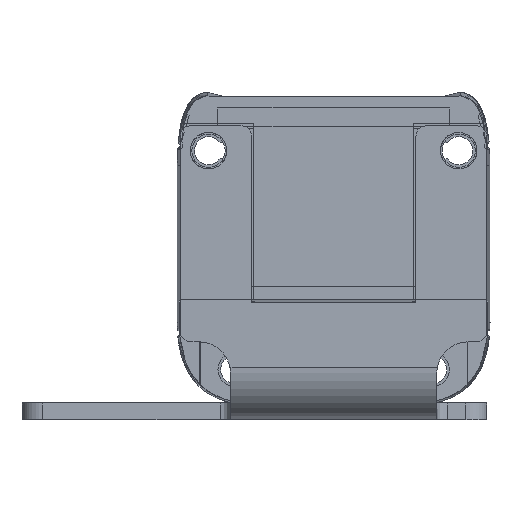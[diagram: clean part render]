
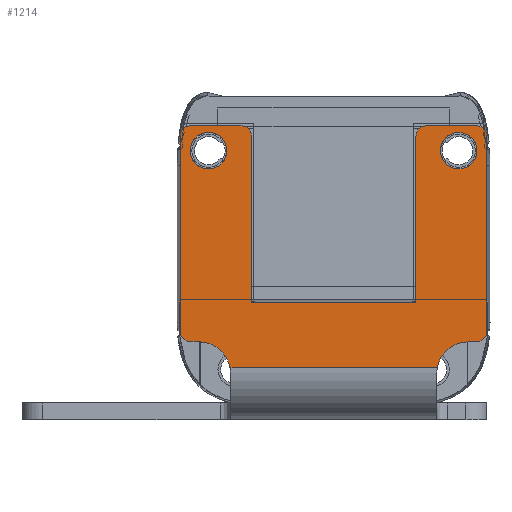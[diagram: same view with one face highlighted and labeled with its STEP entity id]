
A CAD part, front view. The second image highlights one B-rep face of the part: STEP entity #1214.
In plain terms, the highlighted planar face has unit normal (0, -1, 0).
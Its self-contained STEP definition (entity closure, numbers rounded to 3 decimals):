
#1214=ADVANCED_FACE('',(#1904,#1905,#1906),#1492,.T.);
#1492=PLANE('',#9447);
#1797=CIRCLE('',#9437,3.);
#1798=CIRCLE('',#9438,1.);
#1799=CIRCLE('',#9439,1.);
#1800=CIRCLE('',#9440,1.);
#1801=CIRCLE('',#9441,1.);
#1802=CIRCLE('',#9442,1.);
#1803=CIRCLE('',#9443,1.);
#1804=CIRCLE('',#9444,3.);
#1805=CIRCLE('',#9445,1.75);
#1806=CIRCLE('',#9446,1.75);
#1904=FACE_BOUND('',#2370,.T.);
#1905=FACE_BOUND('',#2371,.T.);
#1906=FACE_BOUND('',#2372,.T.);
#2370=EDGE_LOOP('',(#4747,#4748,#4749,#4750,#4751,#4752,#4753,#4754,#4755,
#4756,#4757,#4758,#4759,#4760,#4761,#4762,#4763,#4764));
#2371=EDGE_LOOP('',(#4765));
#2372=EDGE_LOOP('',(#4766));
#4747=ORIENTED_EDGE('',*,*,#6984,.T.);
#4748=ORIENTED_EDGE('',*,*,#6985,.F.);
#4749=ORIENTED_EDGE('',*,*,#6986,.T.);
#4750=ORIENTED_EDGE('',*,*,#6987,.T.);
#4751=ORIENTED_EDGE('',*,*,#6988,.T.);
#4752=ORIENTED_EDGE('',*,*,#6989,.T.);
#4753=ORIENTED_EDGE('',*,*,#6990,.T.);
#4754=ORIENTED_EDGE('',*,*,#6991,.F.);
#4755=ORIENTED_EDGE('',*,*,#6992,.F.);
#4756=ORIENTED_EDGE('',*,*,#6993,.T.);
#4757=ORIENTED_EDGE('',*,*,#6994,.T.);
#4758=ORIENTED_EDGE('',*,*,#6995,.F.);
#4759=ORIENTED_EDGE('',*,*,#6996,.T.);
#4760=ORIENTED_EDGE('',*,*,#6997,.F.);
#4761=ORIENTED_EDGE('',*,*,#6998,.T.);
#4762=ORIENTED_EDGE('',*,*,#6999,.T.);
#4763=ORIENTED_EDGE('',*,*,#7000,.T.);
#4764=ORIENTED_EDGE('',*,*,#7001,.T.);
#4765=ORIENTED_EDGE('',*,*,#7002,.F.);
#4766=ORIENTED_EDGE('',*,*,#7003,.T.);
#5758=VERTEX_POINT('',#15419);
#5759=VERTEX_POINT('',#15420);
#5760=VERTEX_POINT('',#15422);
#5761=VERTEX_POINT('',#15424);
#5762=VERTEX_POINT('',#15426);
#5763=VERTEX_POINT('',#15428);
#5764=VERTEX_POINT('',#15430);
#5765=VERTEX_POINT('',#15432);
#5766=VERTEX_POINT('',#15434);
#5767=VERTEX_POINT('',#15436);
#5768=VERTEX_POINT('',#15438);
#5769=VERTEX_POINT('',#15440);
#5770=VERTEX_POINT('',#15442);
#5771=VERTEX_POINT('',#15444);
#5772=VERTEX_POINT('',#15446);
#5773=VERTEX_POINT('',#15448);
#5774=VERTEX_POINT('',#15450);
#5775=VERTEX_POINT('',#15452);
#5776=VERTEX_POINT('',#15455);
#5777=VERTEX_POINT('',#15457);
#6984=EDGE_CURVE('',#5758,#5759,#1797,.T.);
#6985=EDGE_CURVE('',#5760,#5759,#7863,.T.);
#6986=EDGE_CURVE('',#5760,#5761,#1798,.T.);
#6987=EDGE_CURVE('',#5761,#5762,#7864,.T.);
#6988=EDGE_CURVE('',#5762,#5763,#1799,.T.);
#6989=EDGE_CURVE('',#5763,#5764,#7865,.T.);
#6990=EDGE_CURVE('',#5764,#5765,#1800,.T.);
#6991=EDGE_CURVE('',#5766,#5765,#7866,.T.);
#6992=EDGE_CURVE('',#5767,#5766,#7867,.T.);
#6993=EDGE_CURVE('',#5767,#5768,#7868,.T.);
#6994=EDGE_CURVE('',#5768,#5769,#1801,.T.);
#6995=EDGE_CURVE('',#5770,#5769,#7869,.T.);
#6996=EDGE_CURVE('',#5770,#5771,#1802,.T.);
#6997=EDGE_CURVE('',#5772,#5771,#7870,.T.);
#6998=EDGE_CURVE('',#5772,#5773,#1803,.T.);
#6999=EDGE_CURVE('',#5773,#5774,#7871,.T.);
#7000=EDGE_CURVE('',#5774,#5775,#1804,.T.);
#7001=EDGE_CURVE('',#5775,#5758,#7872,.T.);
#7002=EDGE_CURVE('',#5776,#5776,#1805,.T.);
#7003=EDGE_CURVE('',#5777,#5777,#1806,.T.);
#7863=LINE('',#15421,#8719);
#7864=LINE('',#15425,#8720);
#7865=LINE('',#15429,#8721);
#7866=LINE('',#15433,#8722);
#7867=LINE('',#15435,#8723);
#7868=LINE('',#15437,#8724);
#7869=LINE('',#15441,#8725);
#7870=LINE('',#15445,#8726);
#7871=LINE('',#15449,#8727);
#7872=LINE('',#15453,#8728);
#8719=VECTOR('',#11638,1.);
#8720=VECTOR('',#11641,1.);
#8721=VECTOR('',#11644,1.);
#8722=VECTOR('',#11647,1.);
#8723=VECTOR('',#11648,1.);
#8724=VECTOR('',#11649,1.);
#8725=VECTOR('',#11652,1.);
#8726=VECTOR('',#11655,1.);
#8727=VECTOR('',#11658,1.);
#8728=VECTOR('',#11661,1.);
#9437=AXIS2_PLACEMENT_3D('',#15418,#11636,#11637);
#9438=AXIS2_PLACEMENT_3D('',#15423,#11639,#11640);
#9439=AXIS2_PLACEMENT_3D('',#15427,#11642,#11643);
#9440=AXIS2_PLACEMENT_3D('',#15431,#11645,#11646);
#9441=AXIS2_PLACEMENT_3D('',#15439,#11650,#11651);
#9442=AXIS2_PLACEMENT_3D('',#15443,#11653,#11654);
#9443=AXIS2_PLACEMENT_3D('',#15447,#11656,#11657);
#9444=AXIS2_PLACEMENT_3D('',#15451,#11659,#11660);
#9445=AXIS2_PLACEMENT_3D('',#15454,#11662,#11663);
#9446=AXIS2_PLACEMENT_3D('',#15456,#11664,#11665);
#9447=AXIS2_PLACEMENT_3D('',#15458,#11666,#11667);
#11636=DIRECTION('',(0.,1.,0.));
#11637=DIRECTION('',(0.,0.,1.));
#11638=DIRECTION('',(-1.,0.,0.));
#11639=DIRECTION('',(0.,-1.,0.));
#11640=DIRECTION('',(0.,0.,1.));
#11641=DIRECTION('',(0.,0.,1.));
#11642=DIRECTION('',(0.,-1.,0.));
#11643=DIRECTION('',(0.,0.,-1.));
#11644=DIRECTION('',(-1.,0.,0.));
#11645=DIRECTION('',(0.,-1.,0.));
#11646=DIRECTION('',(0.,0.,-1.));
#11647=DIRECTION('',(0.,0.,1.));
#11648=DIRECTION('',(1.,0.,0.));
#11649=DIRECTION('',(0.,0.,1.));
#11650=DIRECTION('',(0.,-1.,0.));
#11651=DIRECTION('',(0.,0.,1.));
#11652=DIRECTION('',(1.,0.,0.));
#11653=DIRECTION('',(0.,-1.,0.));
#11654=DIRECTION('',(0.,0.,1.));
#11655=DIRECTION('',(0.,0.,1.));
#11656=DIRECTION('',(0.,-1.,0.));
#11657=DIRECTION('',(0.,0.,1.));
#11658=DIRECTION('',(1.,0.,0.));
#11659=DIRECTION('',(0.,1.,0.));
#11660=DIRECTION('',(0.,0.,1.));
#11661=DIRECTION('',(1.,0.,0.));
#11662=DIRECTION('',(0.,-1.,0.));
#11663=DIRECTION('',(0.,0.,1.));
#11664=DIRECTION('',(0.,1.,0.));
#11665=DIRECTION('',(0.,0.,-1.));
#11666=DIRECTION('',(0.,-1.,0.));
#11667=DIRECTION('',(-1.,0.,0.));
#15418=CARTESIAN_POINT('',(12.89,-254.2,-139.533));
#15419=CARTESIAN_POINT('',(9.939,-254.2,-138.994));
#15420=CARTESIAN_POINT('',(12.89,-254.2,-136.533));
#15421=CARTESIAN_POINT('',(-7.89,-254.2,-136.533));
#15422=CARTESIAN_POINT('',(13.69,-254.2,-136.533));
#15423=CARTESIAN_POINT('',(13.69,-254.2,-135.533));
#15424=CARTESIAN_POINT('',(14.69,-254.2,-135.533));
#15425=CARTESIAN_POINT('',(14.69,-254.2,-115.6));
#15426=CARTESIAN_POINT('',(14.69,-254.2,-116.8));
#15427=CARTESIAN_POINT('',(13.69,-254.2,-116.8));
#15428=CARTESIAN_POINT('',(13.69,-254.2,-115.8));
#15429=CARTESIAN_POINT('',(7.89,-254.2,-115.8));
#15430=CARTESIAN_POINT('',(8.89,-254.2,-115.8));
#15431=CARTESIAN_POINT('',(8.89,-254.2,-116.8));
#15432=CARTESIAN_POINT('',(7.89,-254.2,-116.8));
#15433=CARTESIAN_POINT('',(7.89,-254.2,-115.6));
#15434=CARTESIAN_POINT('',(7.89,-254.2,-132.733));
#15435=CARTESIAN_POINT('',(-9.89,-254.2,-132.733));
#15436=CARTESIAN_POINT('',(-7.89,-254.2,-132.733));
#15437=CARTESIAN_POINT('',(-7.89,-254.2,-115.6));
#15438=CARTESIAN_POINT('',(-7.89,-254.2,-116.8));
#15439=CARTESIAN_POINT('',(-8.89,-254.2,-116.8));
#15440=CARTESIAN_POINT('',(-8.89,-254.2,-115.8));
#15441=CARTESIAN_POINT('',(-7.89,-254.2,-115.8));
#15442=CARTESIAN_POINT('',(-13.69,-254.2,-115.8));
#15443=CARTESIAN_POINT('',(-13.69,-254.2,-116.8));
#15444=CARTESIAN_POINT('',(-14.69,-254.2,-116.8));
#15445=CARTESIAN_POINT('',(-14.69,-254.2,-115.6));
#15446=CARTESIAN_POINT('',(-14.69,-254.2,-135.533));
#15447=CARTESIAN_POINT('',(-13.69,-254.2,-135.533));
#15448=CARTESIAN_POINT('',(-13.69,-254.2,-136.533));
#15449=CARTESIAN_POINT('',(-7.89,-254.2,-136.533));
#15450=CARTESIAN_POINT('',(-12.89,-254.2,-136.533));
#15451=CARTESIAN_POINT('',(-12.89,-254.2,-139.533));
#15452=CARTESIAN_POINT('',(-9.939,-254.2,-138.994));
#15453=CARTESIAN_POINT('',(-9.89,-254.2,-138.994));
#15454=CARTESIAN_POINT('',(-12.,-254.2,-118.2));
#15455=CARTESIAN_POINT('',(-12.,-254.2,-116.45));
#15456=CARTESIAN_POINT('',(12.,-254.2,-118.2));
#15457=CARTESIAN_POINT('',(12.,-254.2,-119.95));
#15458=CARTESIAN_POINT('',(-9.89,-254.2,-142.394));
